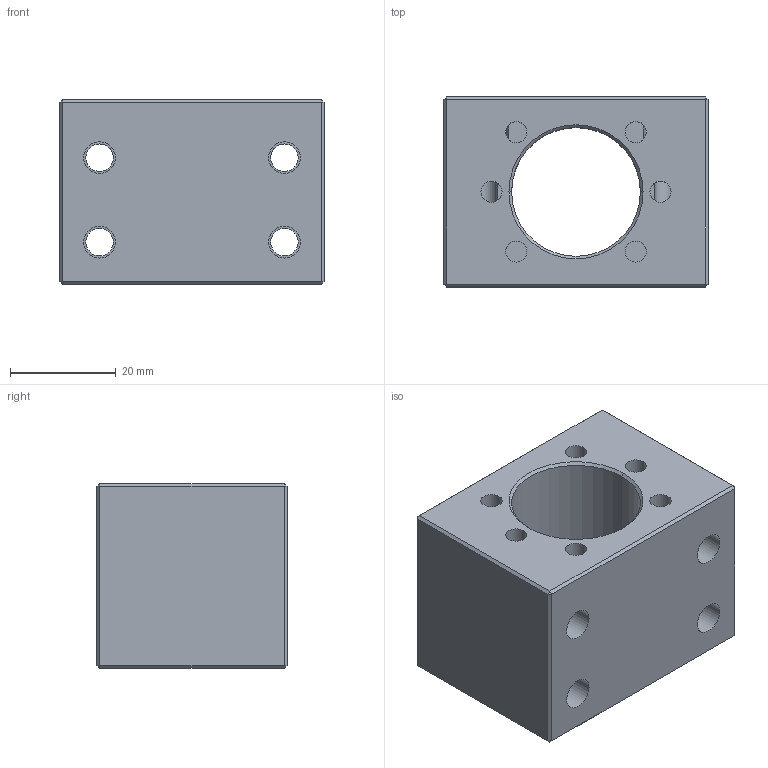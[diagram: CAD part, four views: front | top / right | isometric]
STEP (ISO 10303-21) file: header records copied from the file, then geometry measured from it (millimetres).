
FILE_DESCRIPTION (( 'STEP AP214' ), '1' );
FILE_NAME ('2.4018 Kuulamutterin kotelo MGD12.STEP', '2025-09-22T06:22:06', ( '' ), ( '' ), 'SwSTEP 2.0', 'SolidWorks 2025', '' );
FILE_SCHEMA (( 'AUTOMOTIVE_DESIGN' ));
Length unit declared in the file: millimetre
Products named in the file (1): 2.4018 Kuulamutterin kotelo MGD12
Bounding box: 50 x 36 x 35 mm (x, y, z)
Volume: 40600.9 mm3; surface area: 14641.8 mm2
Topology: 1 solids, 1 shells, 90 faces, 202 edges, 120 vertices
Faces by surface type: plane 40, cylinder 38, cone 12
Entity records: 2805 total; most frequent: CARTESIAN_POINT 693, DIRECTION 464, ORIENTED_EDGE 404, EDGE_CURVE 202, AXIS2_PLACEMENT_3D 179, VERTEX_POINT 120, EDGE_LOOP 114, VECTOR 106
